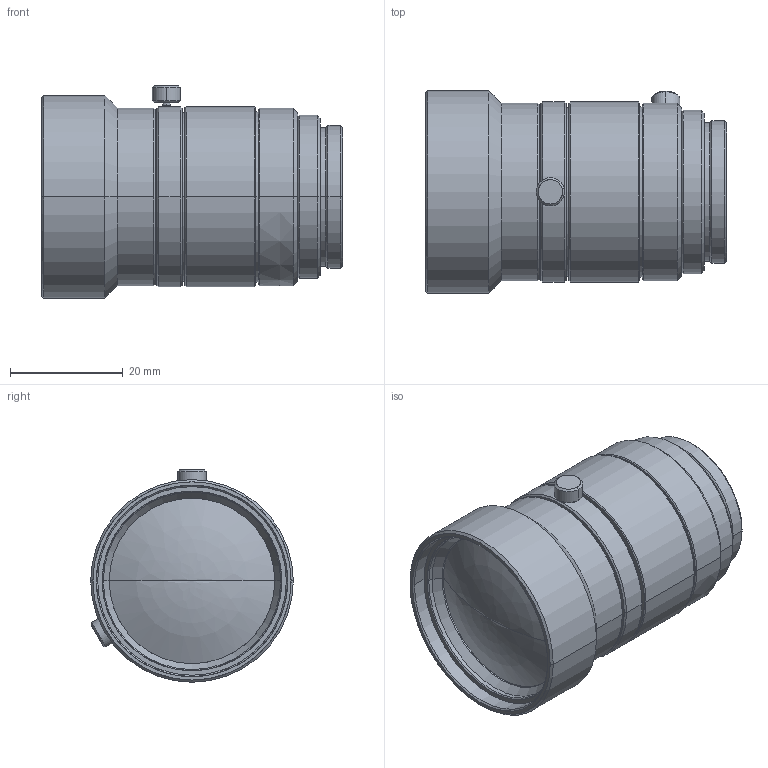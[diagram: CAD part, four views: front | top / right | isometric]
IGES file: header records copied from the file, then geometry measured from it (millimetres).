
Start section: SolidWorks IGES file using analytic representation for surfaces
Global section: file name: \\192.168.1.203\Tsuji\作業中\7525H.IGS,15; native system: HSolidWorks 2012; preprocessor: SolidWorks 2012; author: I-3Dcad; date: 120907.100504; units: millimetre
Bounding box: 53.5 x 36 x 37.75 mm (x, y, z)
Surface area: 8972.2 mm2 (no closed solid volume)
Topology: 0 solids, 0 shells, 138 faces, 2335 edges, 2333 vertices
Faces by surface type: revolution 118, bspline 20
